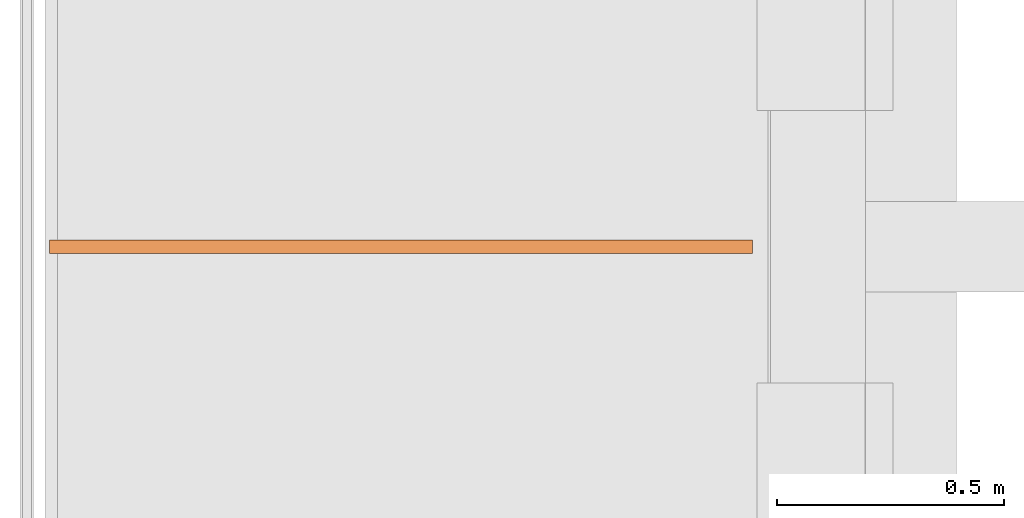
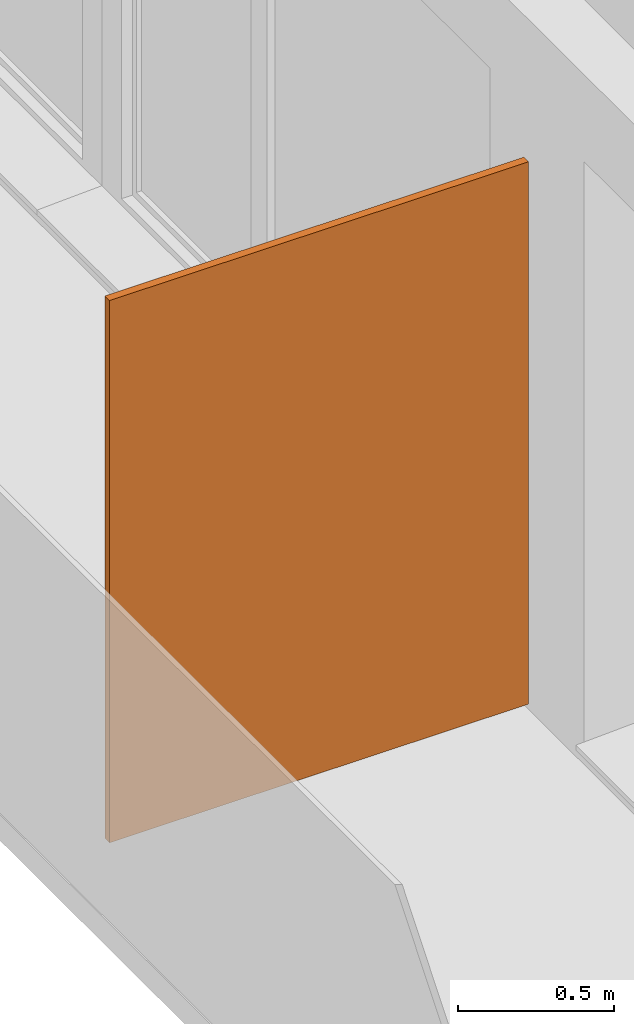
# One storey, part 13 of 64: 1 proxy.
"""IFC2X3 building model written with IfcOpenShell, lengths in millimetres."""

from ifc_helpers import new_model, entity, si_unit, converted_unit, derived_unit, money_unit, direction, frame, origin_with_axes, place, context, subcontext, project, spatial, polyline, outline, extrude, material, type_object, element, save


model = new_model("IFC2X3")

# Units and contexts
model_context = context("Model", 3, precision=0.01, world=origin_with_axes(), true_north=direction((0.34421633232, 0.938890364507)))
body_context = subcontext(model_context, "Body", "Model", "MODEL_VIEW")
ifc_project = project(units=[si_unit("LENGTHUNIT", "METRE", prefix="MILLI"), si_unit("AREAUNIT", "SQUARE_METRE"), si_unit("VOLUMEUNIT", "CUBIC_METRE"), converted_unit("PLANEANGLEUNIT", "DEGREE", entity("IfcPlaneAngleMeasure", 0.0174532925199), si_unit("PLANEANGLEUNIT", "RADIAN"), dimensions=[0, 0, 0, 0, 0, 0, 0]), si_unit("SOLIDANGLEUNIT", "STERADIAN"), money_unit("USD"), converted_unit("TIMEUNIT", "Year", entity("IfcTimeMeasure", 31556926.0), si_unit("TIMEUNIT", "SECOND"), dimensions=[0, 0, 1, 0, 0, 0, 0]), si_unit("MASSUNIT", "GRAM", prefix="KILO"), si_unit("THERMODYNAMICTEMPERATUREUNIT", "DEGREE_CELSIUS"), si_unit("LUMINOUSINTENSITYUNIT", "LUMEN"), si_unit("ENERGYUNIT", "JOULE", prefix="MEGA"), derived_unit("THERMALCONDUCTANCEUNIT", [(si_unit("POWERUNIT", "WATT"), 1), (si_unit("LENGTHUNIT", "METRE"), -1), (si_unit("THERMODYNAMICTEMPERATUREUNIT", "KELVIN"), -1)]), derived_unit("SPECIFICHEATCAPACITYUNIT", [(si_unit("ENERGYUNIT", "JOULE"), 1), (si_unit("MASSUNIT", "GRAM", prefix="KILO"), -1), (si_unit("THERMODYNAMICTEMPERATUREUNIT", "KELVIN"), -1)]), derived_unit("MASSDENSITYUNIT", [(si_unit("MASSUNIT", "GRAM", prefix="KILO"), 1), (si_unit("VOLUMEUNIT", "CUBIC_METRE"), -1)])], contexts=[model_context])

# Site, building, storey
site_placement = place(None, origin_with_axes())
site = spatial("IfcSite", under=ifc_project, at=site_placement, Name="USTRONIE MORSKIE", CompositionType="ELEMENT")
building_placement = place(site_placement, origin_with_axes())
building = spatial("IfcBuilding", under=site, at=building_placement, Name="Budynek", CompositionType="ELEMENT")
storey_placement = place(building_placement, frame((0.0, 0.0, 7000.0), z_axis=(0.0, 0.0, 1.0), x_axis=(1.0, 0.0, 0.0)))
storey = spatial("IfcBuildingStorey", under=building, at=storey_placement, Name="PIĘTRO 2", CompositionType="ELEMENT", Elevation=7000.0)

# Proxy
ifc_material = material(Name="Woda")
building_element_proxy_type = type_object("IfcBuildingElementProxyType", Name="Woda 30", PredefinedType="NOTDEFINED")
proxy_placement = place(storey_placement, frame((349717.920919, 732801.199036, 20.0), z_axis=(0.0, 0.0, 1.0), x_axis=(-1.0, 0.0, 0.0)))
element("IfcBuildingElementProxy", 1, at=proxy_placement, inside=storey, type_object=building_element_proxy_type, material=ifc_material, Name="Œciana-007", context=body_context, shape_type="SweptSolid", body=[
    extrude(outline(polyline([(0.0, -15.0), (1550.0, -15.0), (1550.0, 15.0), (0.0, 15.0), (0.0, -15.0)])), origin_with_axes(), (0.0, 0.0, 1.0), 2120.0),
])

save(model, "model.ifc")
